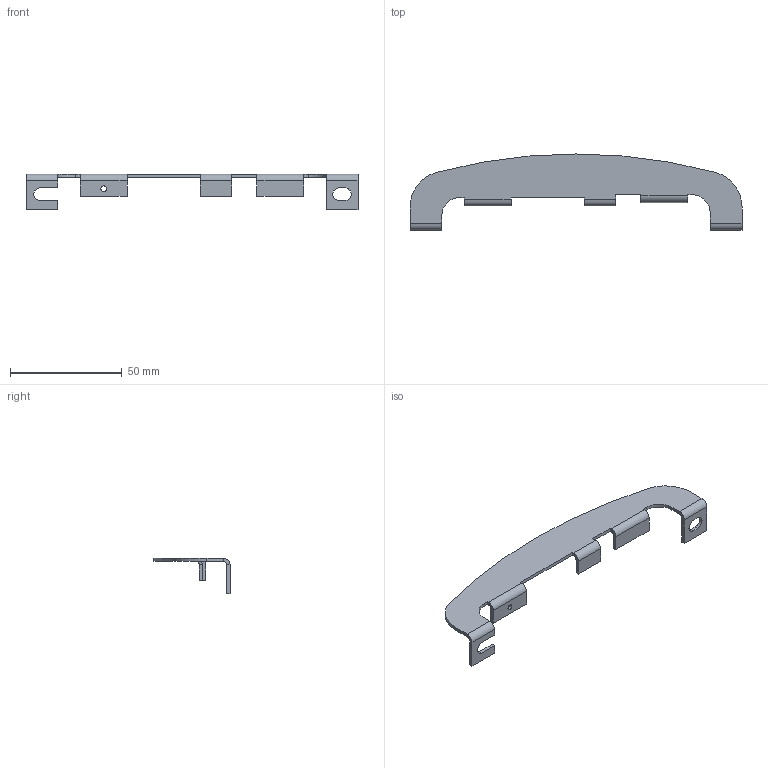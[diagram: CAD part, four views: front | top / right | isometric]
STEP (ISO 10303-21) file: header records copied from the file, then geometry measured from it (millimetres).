
FILE_DESCRIPTION(/* description */ (''),/* implementation_level */ '2;1');
FILE_NAME(/* name */ 'H:\My Documents\POOLP2\Desktop\md3_zm10-r.stp',/* time_stamp */ '2020-10-15T07:01:06+02:00',/* author */ ('rahns'),/* organization */ (''),/* preprocessor_version */ 'ST-DEVELOPER v18.1',/* originating_system */ 'Autodesk Inventor 2020',/* authorisation */ '');
FILE_SCHEMA (('AUTOMOTIVE_DESIGN { 1 0 10303 214 3 1 1 }'));
Length unit declared in the file: millimetre
Products named in the file (1): ZM10_R
Bounding box: 148.5 x 34 x 16 mm (x, y, z)
Volume: 5340 mm3; surface area: 7919.6 mm2
Topology: 1 solids, 1 shells, 69 faces, 175 edges, 108 vertices
Faces by surface type: plane 50, cylinder 19
Full cylindrical faces by diameter (mm): 2.459 x1
Entity records: 2090 total; most frequent: DIRECTION 355, CARTESIAN_POINT 353, ORIENTED_EDGE 350, EDGE_CURVE 175, LINE 135, VECTOR 135, AXIS2_PLACEMENT_3D 110, VERTEX_POINT 108
